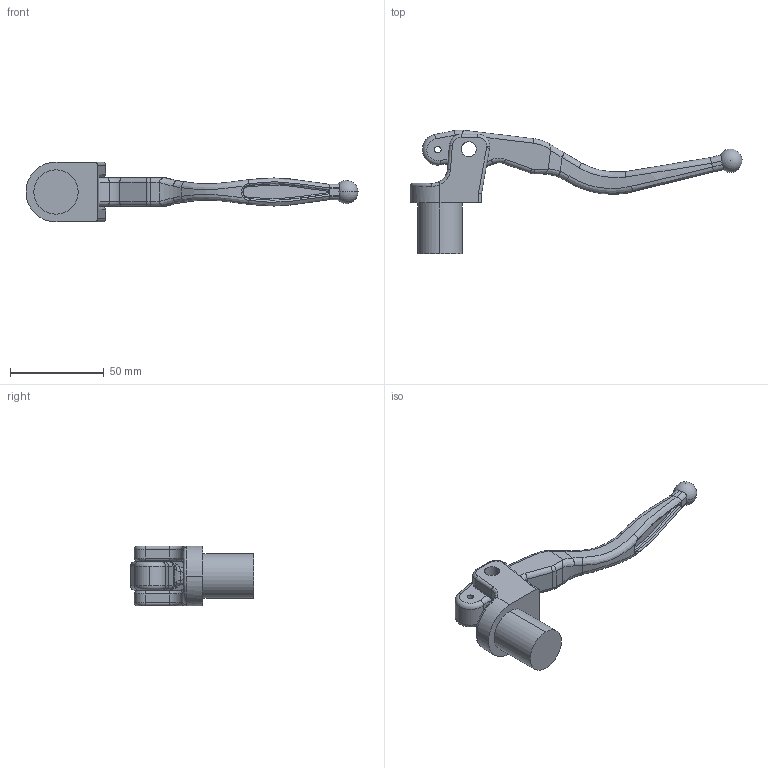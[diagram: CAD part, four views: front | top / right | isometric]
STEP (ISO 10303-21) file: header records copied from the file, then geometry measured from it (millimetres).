
FILE_DESCRIPTION (( 'STEP AP214' ), '1' );
FILE_NAME ('c07_tut01.STEP', '2012-11-01T08:56:13', ( '' ), ( '' ), 'SwSTEP 2.0', 'SolidWorks 2012', '' );
FILE_SCHEMA (( 'AUTOMOTIVE_DESIGN' ));
Length unit declared in the file: millimetre
Products named in the file (3): Maitre cylindre ap; levierap; c07_tut01
Assembly tree (2 placements, depth 2):
  c07_tut01
    levierap
    Maitre cylindre ap
Bounding box: 177.11 x 66.07 x 32 mm (x, y, z)
Volume: 58781.6 mm3; surface area: 17540.7 mm2
Topology: 2 solids, 2 shells, 169 faces, 426 edges, 256 vertices
Faces by surface type: bspline 66, cylinder 60, plane 27, torus 14, sphere 2
Entity records: 8334 total; most frequent: CARTESIAN_POINT 4679, ORIENTED_EDGE 834, DIRECTION 641, EDGE_CURVE 417, AXIS2_PLACEMENT_3D 260, VERTEX_POINT 253, EDGE_LOOP 178, ADVANCED_FACE 169
